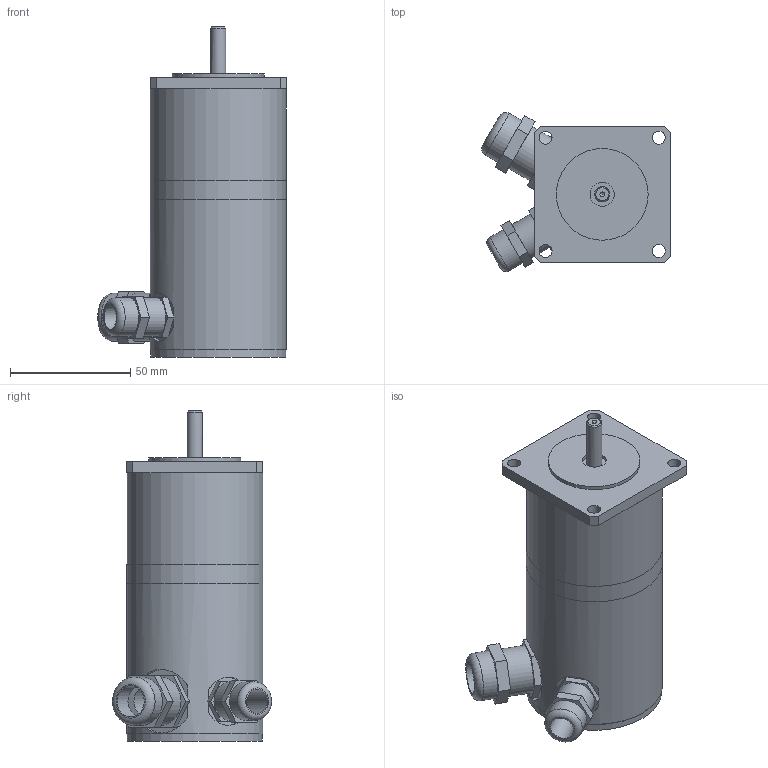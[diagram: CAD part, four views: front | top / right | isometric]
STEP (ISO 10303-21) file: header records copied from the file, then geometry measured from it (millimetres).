
FILE_DESCRIPTION((''),'2;1');
FILE_NAME('C:\Users\Reinhard\Documents\Inventor\Testschrittmotor\SM56\step files\SM 56.1-B-KV.stp','2020-02-24T21:06:41',('Reinhard'),(''),'Autodesk Inventor 2012','Autodesk Inventor 2012','');
FILE_SCHEMA(('CONFIG_CONTROL_DESIGN'));
Length unit declared in the file: millimetre
Products named in the file (1): SM 56.1-B-KV_Konturvereinfachung_1
Bounding box: 78.27 x 66.07 x 137 mm (x, y, z)
Volume: 104410.7 mm3; surface area: 57903.8 mm2
Topology: 2 solids, 3 shells, 108 faces, 240 edges, 155 vertices
Faces by surface type: plane 71, cylinder 33, torus 2, cone 2
Full cylindrical faces by diameter (mm): 2 x1, 5.4 x4, 6.35 x2, 10 x2, 12 x2, 13 x2, 15 x2, 16 x2, 18.376 x1, 20 x3, 38.1 x1, 48 x1, 51.5 x1, 53.5 x1, 56 x1, 56.5 x3
Entity records: 2936 total; most frequent: CARTESIAN_POINT 589, DIRECTION 476, ORIENTED_EDGE 402, EDGE_CURVE 201, AXIS2_PLACEMENT_3D 176, EDGE_LOOP 174, VERTEX_POINT 149, VECTOR 124
